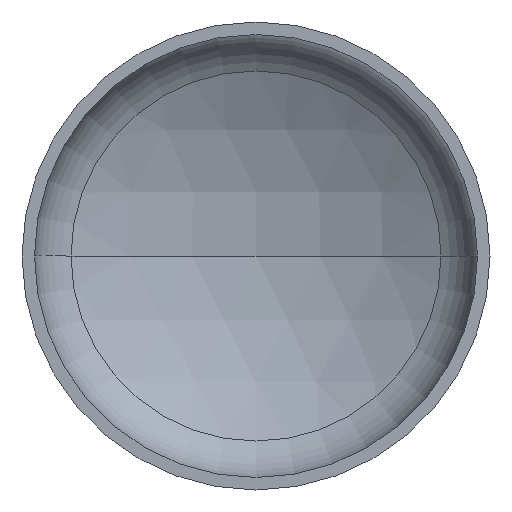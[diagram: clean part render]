
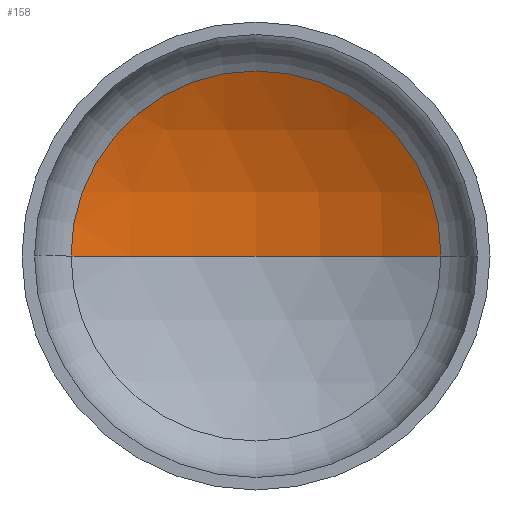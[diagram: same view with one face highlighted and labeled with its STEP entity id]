
A CAD part, front view. The second image highlights one B-rep face of the part: STEP entity #158.
In plain terms, the highlighted spherical face has radius 2880 mm.
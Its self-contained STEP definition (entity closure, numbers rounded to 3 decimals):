
#6 = EDGE_LOOP ( 'NONE', ( #62, #10, #96 ) ) ;
#10 = ORIENTED_EDGE ( 'NONE', *, *, #161, .T. ) ;
#54 = VERTEX_POINT ( 'NONE', #277 ) ;
#59 = VERTEX_POINT ( 'NONE', #258 ) ;
#62 = ORIENTED_EDGE ( 'NONE', *, *, #163, .F. ) ;
#74 = VERTEX_POINT ( 'NONE', #245 ) ;
#85 = AXIS2_PLACEMENT_3D ( 'NONE', #229, #230, #269 ) ;
#93 = AXIS2_PLACEMENT_3D ( 'NONE', #300, #307, #391 ) ;
#95 = AXIS2_PLACEMENT_3D ( 'NONE', #185, #188, #207 ) ;
#96 = ORIENTED_EDGE ( 'NONE', *, *, #155, .T. ) ;
#108 = AXIS2_PLACEMENT_3D ( 'NONE', #236, #394, #266 ) ;
#155 = EDGE_CURVE ( 'NONE', #74, #54, #297, .T. ) ;
#158 = ADVANCED_FACE ( 'NONE', ( #160 ), #345, .F. ) ;
#160 = FACE_OUTER_BOUND ( 'NONE', #6, .T. ) ;
#161 = EDGE_CURVE ( 'NONE', #59, #74, #292, .T. ) ;
#163 = EDGE_CURVE ( 'NONE', #59, #54, #228, .T. ) ;
#185 = CARTESIAN_POINT ( 'NONE',  ( 0., -1921.243, 0. ) ) ;
#188 = DIRECTION ( 'NONE',  ( 0., 0., -1. ) ) ;
#207 = DIRECTION ( 'NONE',  ( -1., 0., 0. ) ) ;
#228 = CIRCLE ( 'NONE', #85, 2880. ) ;
#229 = CARTESIAN_POINT ( 'NONE',  ( 0., -1921.243, 0. ) ) ;
#230 = DIRECTION ( 'NONE',  ( 0., 0., 1. ) ) ;
#236 = CARTESIAN_POINT ( 'NONE',  ( 0., 582.49, 0. ) ) ;
#245 = CARTESIAN_POINT ( 'NONE',  ( 1423.277, 582.49, 0. ) ) ;
#258 = CARTESIAN_POINT ( 'NONE',  ( 0., 958.757, 0. ) ) ;
#266 = DIRECTION ( 'NONE',  ( 1., 0., 0. ) ) ;
#269 = DIRECTION ( 'NONE',  ( 1., 0., 0. ) ) ;
#277 = CARTESIAN_POINT ( 'NONE',  ( -1423.277, 582.49, 0. ) ) ;
#292 = CIRCLE ( 'NONE', #95, 2880. ) ;
#297 = CIRCLE ( 'NONE', #108, 1423.277 ) ;
#300 = CARTESIAN_POINT ( 'NONE',  ( 0., -1921.243, 0. ) ) ;
#307 = DIRECTION ( 'NONE',  ( 0., 0., -1. ) ) ;
#345 = SPHERICAL_SURFACE ( 'NONE', #93, 2880. ) ;
#391 = DIRECTION ( 'NONE',  ( -1., 0., 0. ) ) ;
#394 = DIRECTION ( 'NONE',  ( 0., -1., 0. ) ) ;
